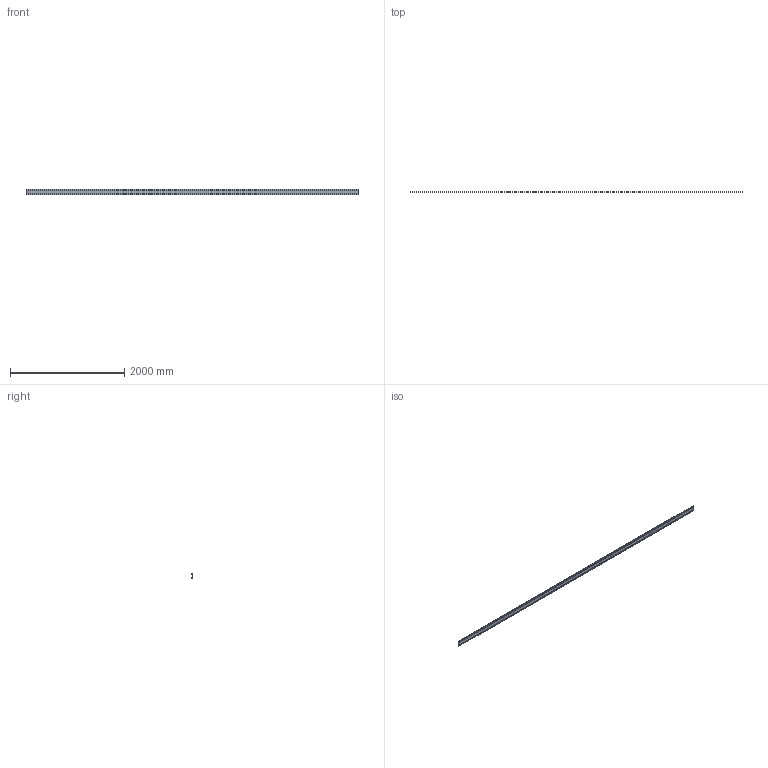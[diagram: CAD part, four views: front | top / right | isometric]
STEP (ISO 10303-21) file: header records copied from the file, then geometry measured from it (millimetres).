
FILE_DESCRIPTION(/* description */ ('KPMx16x5x5800LG'),/* implementation_level */ '2;1');
FILE_NAME(/* name */ 'C:\Users\Callum\The Trustee for INKSTONE UNIT TRUST\GRP Australia - Documents\8 Drawings\Handrails\3D Models\Handrail Fittings STEP\KPM100x16x5.stp',/* time_stamp */ '2022-09-15T14:10:42+10:00',/* author */ ('Callum'),/* organization */ (''),/* preprocessor_version */ 'ST-DEVELOPER v18.1',/* originating_system */ 'Autodesk Inventor 2022',/* authorisation */ '');
FILE_SCHEMA (('AUTOMOTIVE_DESIGN { 1 0 10303 214 3 1 1 }'));
Length unit declared in the file: millimetre
Products named in the file (1): KPM100x16x5
Bounding box: 5800 x 16 x 100 mm (x, y, z)
Volume: 4176000 mm3; surface area: 1729840 mm2
Topology: 1 solids, 1 shells, 18 faces, 48 edges, 32 vertices
Faces by surface type: plane 18
Entity records: 595 total; most frequent: CARTESIAN_POINT 99, ORIENTED_EDGE 96, DIRECTION 86, LINE 48, VECTOR 48, EDGE_CURVE 48, VERTEX_POINT 32, AXIS2_PLACEMENT_3D 19
